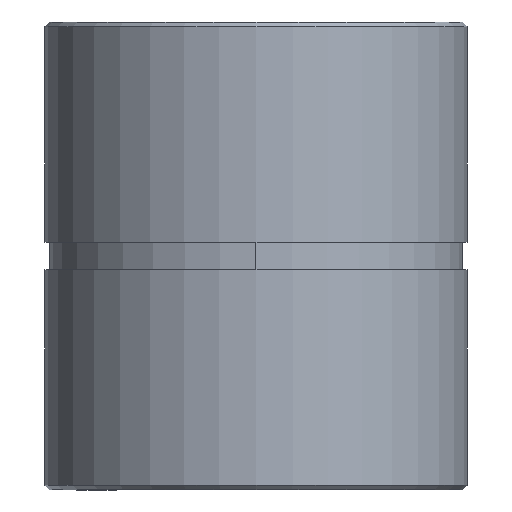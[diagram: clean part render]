
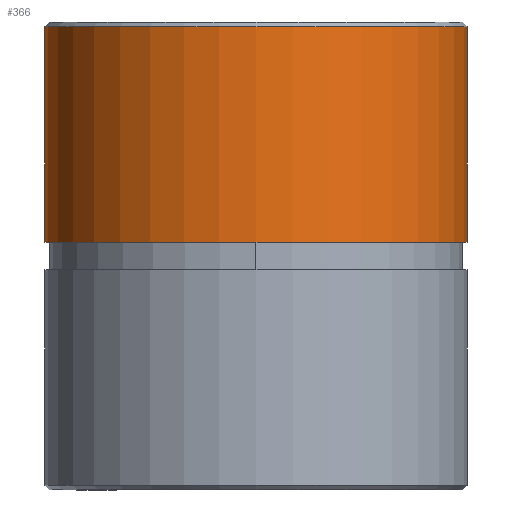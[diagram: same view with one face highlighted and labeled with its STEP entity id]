
A CAD part, front view. The second image highlights one B-rep face of the part: STEP entity #366.
In plain terms, the highlighted cylindrical face has radius 46 mm (diameter 92 mm), a partial arc.
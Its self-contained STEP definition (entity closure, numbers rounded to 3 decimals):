
#221=CARTESIAN_POINT('Vertex',(-46.,0.,50.)) ;
#224=CARTESIAN_POINT('Axis2P3D Location',(0.,0.,50.)) ;
#228=CARTESIAN_POINT('Vertex',(46.,0.,50.)) ;
#336=CARTESIAN_POINT('Axis2P3D Location',(0.,0.,0.)) ;
#341=CARTESIAN_POINT('Line Origine',(46.,0.,0.)) ;
#345=CARTESIAN_POINT('Vertex',(46.,0.,3.)) ;
#348=CARTESIAN_POINT('Line Origine',(-46.,0.,0.)) ;
#352=CARTESIAN_POINT('Vertex',(-46.,0.,3.)) ;
#355=CARTESIAN_POINT('Axis2P3D Location',(0.,0.,3.)) ;
#343=VECTOR('Line Direction',#342,1.) ;
#350=VECTOR('Line Direction',#349,1.) ;
#225=DIRECTION('Axis2P3D Direction',(0.,0.,1.)) ;
#337=DIRECTION('Axis2P3D Direction',(0.,0.,1.)) ;
#338=DIRECTION('Axis2P3D XDirection',(1.,0.,0.)) ;
#342=DIRECTION('Vector Direction',(0.,0.,1.)) ;
#349=DIRECTION('Vector Direction',(0.,0.,1.)) ;
#356=DIRECTION('Axis2P3D Direction',(0.,0.,1.)) ;
#226=AXIS2_PLACEMENT_3D('Circle Axis2P3D',#224,#225,$) ;
#339=AXIS2_PLACEMENT_3D('Cylinder Axis2P3D',#336,#337,#338) ;
#357=AXIS2_PLACEMENT_3D('Circle Axis2P3D',#355,#356,$) ;
#344=LINE('Line',#341,#343) ;
#351=LINE('Line',#348,#350) ;
#227=CIRCLE('generated circle',#226,46.) ;
#358=CIRCLE('generated circle',#357,46.) ;
#340=CYLINDRICAL_SURFACE('generated cylinder',#339,46.) ;
#230=EDGE_CURVE('',#222,#229,#227,.T.) ;
#347=EDGE_CURVE('',#346,#229,#344,.T.) ;
#354=EDGE_CURVE('',#353,#222,#351,.T.) ;
#359=EDGE_CURVE('',#353,#346,#358,.T.) ;
#360=EDGE_LOOP('',(#361,#362,#363,#364)) ;
#361=ORIENTED_EDGE('',*,*,#347,.T.) ;
#362=ORIENTED_EDGE('',*,*,#230,.F.) ;
#363=ORIENTED_EDGE('',*,*,#354,.F.) ;
#364=ORIENTED_EDGE('',*,*,#359,.T.) ;
#222=VERTEX_POINT('',#221) ;
#229=VERTEX_POINT('',#228) ;
#346=VERTEX_POINT('',#345) ;
#353=VERTEX_POINT('',#352) ;
#366=ADVANCED_FACE('PartBody',(#365),#340,.T.) ;
#365=FACE_OUTER_BOUND('',#360,.T.) ;
